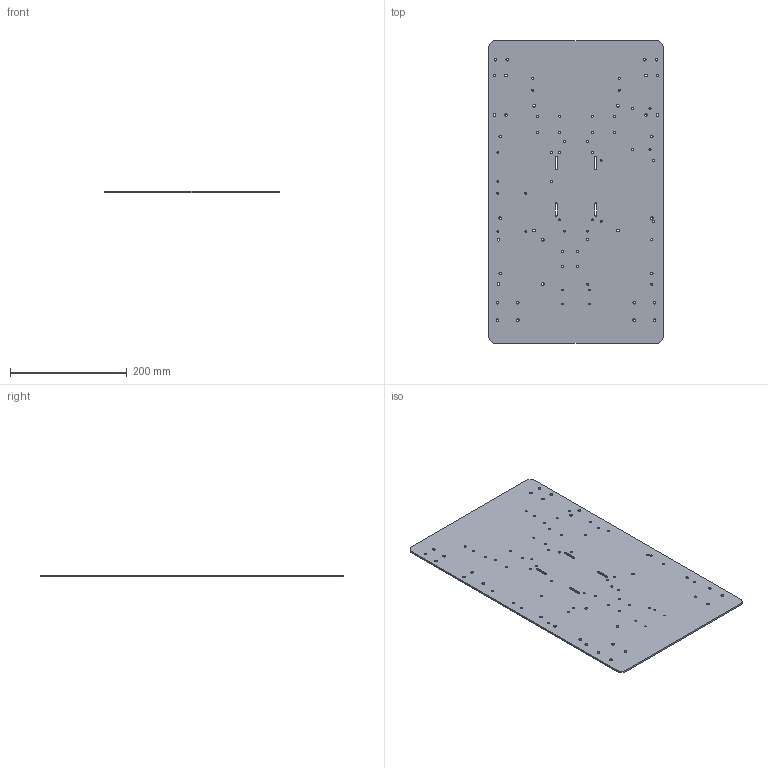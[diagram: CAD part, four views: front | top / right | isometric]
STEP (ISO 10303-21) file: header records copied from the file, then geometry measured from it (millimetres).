
FILE_DESCRIPTION(('Open CASCADE Model'),'2;1');
FILE_NAME('Open CASCADE Shape Model','2026-10-15T18:22:07',('Author'),( 'Open CASCADE'),'Open CASCADE STEP processor 7.9','Open CASCADE 7.9' ,'Unknown');
FILE_SCHEMA(('AUTOMOTIVE_DESIGN { 1 0 10303 214 1 1 1 1 }'));
Length unit declared in the file: millimetre
Products named in the file (1): Open CASCADE STEP translator 7.9 3
Bounding box: 300 x 520 x 3 mm (x, y, z)
Volume: 463733.8 mm3; surface area: 317609.2 mm2
Topology: 1 solids, 1 shells, 108 faces, 318 edges, 212 vertices
Faces by surface type: cylinder 94, plane 14
Full cylindrical faces by diameter (mm): 2.7 x4, 3.5 x44, 4.5 x34
Entity records: 8226 total; most frequent: CARTESIAN_POINT 1427, DIRECTION 1308, ORIENTED_EDGE 636, PCURVE 636, DEFINITIONAL_REPRESENTATION 636, LINE 546, VECTOR 546, CIRCLE 356
